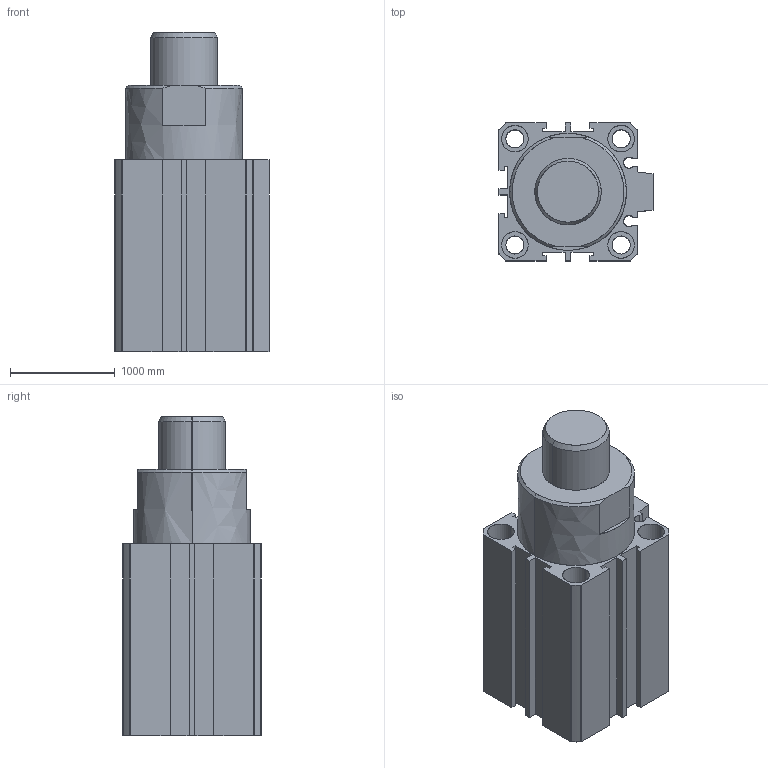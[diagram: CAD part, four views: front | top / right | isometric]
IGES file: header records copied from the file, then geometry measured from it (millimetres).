
Start section: SolidWorks IGES file using analytic representation for surfaces
Global section: file name: C:\Documents and Settings\Standard\Bureau\NM pieces 3d\ELO 40 20 tige sortie.IGS; native system: SolidWorks 2007; preprocessor: SolidWorks 2007; author: Standard; date: 080328.103618; units: inch
Bounding box: 1473.2 x 1320.8 x 3053.08 mm (x, y, z)
Surface area: 32026868.4 mm2 (no closed solid volume)
Topology: 0 solids, 0 shells, 538 faces, 13421 edges, 13459 vertices
Faces by surface type: bspline 483, revolution 55
